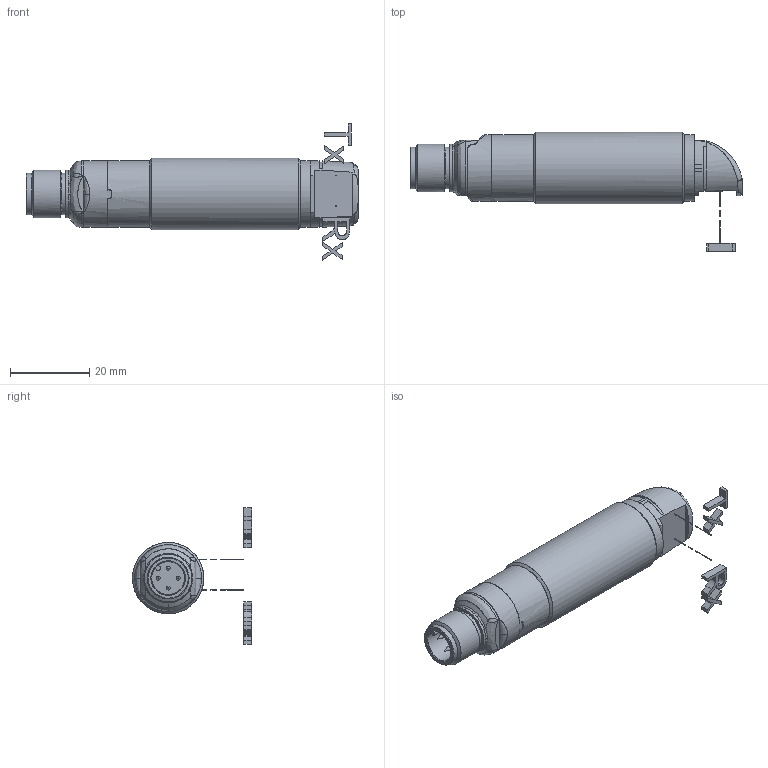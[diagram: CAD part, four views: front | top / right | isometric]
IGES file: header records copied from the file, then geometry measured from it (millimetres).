
Global section: file name: D:\TMP\DSD-0103.igs; preprocessor: I-DEAS 3D IGES Translator 11; date: 20060608.104739; units: millimetre
Bounding box: 83.6 x 30 x 34.32 mm (x, y, z)
Surface area: 9481.3 mm2
Topology: 8 solids, 8 shells, 238 faces, 1145 edges, 1038 vertices
Faces by surface type: bspline 238
